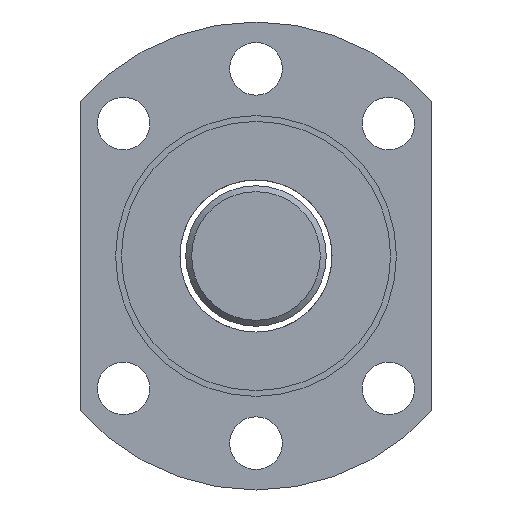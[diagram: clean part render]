
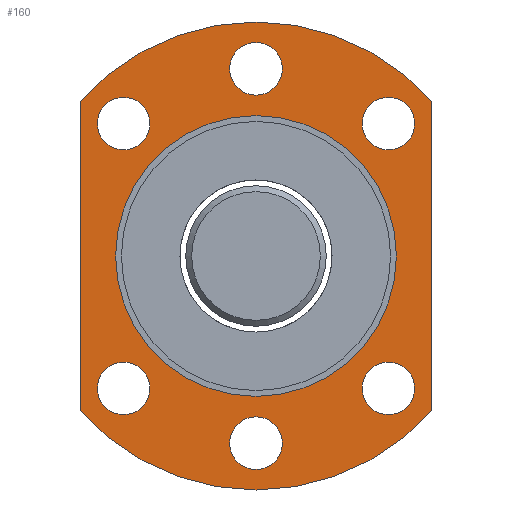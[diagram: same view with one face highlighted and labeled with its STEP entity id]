
A CAD part, left-side view. The second image highlights one B-rep face of the part: STEP entity #160.
In plain terms, the highlighted planar face has unit normal (-1, 0, 0).
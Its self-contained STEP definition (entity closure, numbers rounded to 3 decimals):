
#99=LINE('',#775,#107);
#100=LINE('',#777,#108);
#107=VECTOR('',#607,1.);
#108=VECTOR('',#608,1.);
#128=PLANE('',#540);
#140=FACE_OUTER_BOUND('',#263,.T.);
#160=ADVANCED_FACE('',(#140,#209,#210,#211,#212,#213,#214,#215),#128,.T.);
#209=FACE_BOUND('',#264,.T.);
#210=FACE_BOUND('',#265,.T.);
#211=FACE_BOUND('',#266,.T.);
#212=FACE_BOUND('',#267,.T.);
#213=FACE_BOUND('',#268,.T.);
#214=FACE_BOUND('',#269,.T.);
#215=FACE_BOUND('',#270,.T.);
#263=EDGE_LOOP('',(#334,#335,#336,#337));
#264=EDGE_LOOP('',(#338));
#265=EDGE_LOOP('',(#339));
#266=EDGE_LOOP('',(#340));
#267=EDGE_LOOP('',(#341));
#268=EDGE_LOOP('',(#342));
#269=EDGE_LOOP('',(#343));
#270=EDGE_LOOP('',(#344));
#334=ORIENTED_EDGE('',*,*,#455,.F.);
#335=ORIENTED_EDGE('',*,*,#451,.F.);
#336=ORIENTED_EDGE('',*,*,#456,.T.);
#337=ORIENTED_EDGE('',*,*,#457,.F.);
#338=ORIENTED_EDGE('',*,*,#458,.T.);
#339=ORIENTED_EDGE('',*,*,#459,.F.);
#340=ORIENTED_EDGE('',*,*,#460,.F.);
#341=ORIENTED_EDGE('',*,*,#461,.F.);
#342=ORIENTED_EDGE('',*,*,#462,.F.);
#343=ORIENTED_EDGE('',*,*,#463,.F.);
#344=ORIENTED_EDGE('',*,*,#464,.F.);
#412=VERTEX_POINT('',#767);
#413=VERTEX_POINT('',#768);
#416=VERTEX_POINT('',#776);
#417=VERTEX_POINT('',#778);
#418=VERTEX_POINT('',#781);
#419=VERTEX_POINT('',#783);
#420=VERTEX_POINT('',#785);
#421=VERTEX_POINT('',#787);
#422=VERTEX_POINT('',#789);
#423=VERTEX_POINT('',#791);
#424=VERTEX_POINT('',#793);
#451=EDGE_CURVE('',#412,#413,#492,.T.);
#455=EDGE_CURVE('',#413,#416,#99,.T.);
#456=EDGE_CURVE('',#412,#417,#100,.T.);
#457=EDGE_CURVE('',#416,#417,#494,.T.);
#458=EDGE_CURVE('',#418,#418,#495,.T.);
#459=EDGE_CURVE('',#419,#419,#496,.T.);
#460=EDGE_CURVE('',#420,#420,#497,.T.);
#461=EDGE_CURVE('',#421,#421,#498,.T.);
#462=EDGE_CURVE('',#422,#422,#499,.T.);
#463=EDGE_CURVE('',#423,#423,#500,.T.);
#464=EDGE_CURVE('',#424,#424,#501,.T.);
#492=CIRCLE('',#529,20.);
#494=CIRCLE('',#532,20.);
#495=CIRCLE('',#533,12.);
#496=CIRCLE('',#534,2.25);
#497=CIRCLE('',#535,2.25);
#498=CIRCLE('',#536,2.25);
#499=CIRCLE('',#537,2.25);
#500=CIRCLE('',#538,2.25);
#501=CIRCLE('',#539,2.25);
#529=AXIS2_PLACEMENT_3D('',#766,#599,#600);
#532=AXIS2_PLACEMENT_3D('',#779,#609,#610);
#533=AXIS2_PLACEMENT_3D('',#780,#611,#612);
#534=AXIS2_PLACEMENT_3D('',#782,#613,#614);
#535=AXIS2_PLACEMENT_3D('',#784,#615,#616);
#536=AXIS2_PLACEMENT_3D('',#786,#617,#618);
#537=AXIS2_PLACEMENT_3D('',#788,#619,#620);
#538=AXIS2_PLACEMENT_3D('',#790,#621,#622);
#539=AXIS2_PLACEMENT_3D('',#792,#623,#624);
#540=AXIS2_PLACEMENT_3D('',#794,#625,#626);
#599=DIRECTION('',(1.,0.,0.));
#600=DIRECTION('',(0.,0.,-1.));
#607=DIRECTION('',(0.,0.,1.));
#608=DIRECTION('',(0.,0.,1.));
#609=DIRECTION('',(1.,0.,0.));
#610=DIRECTION('',(0.,0.,-1.));
#611=DIRECTION('',(1.,0.,0.));
#612=DIRECTION('',(0.,0.,-1.));
#613=DIRECTION('',(-1.,0.,0.));
#614=DIRECTION('',(0.,0.,1.));
#615=DIRECTION('',(-1.,0.,0.));
#616=DIRECTION('',(0.,0.,1.));
#617=DIRECTION('',(-1.,0.,0.));
#618=DIRECTION('',(0.,0.,1.));
#619=DIRECTION('',(-1.,0.,0.));
#620=DIRECTION('',(0.,0.,1.));
#621=DIRECTION('',(-1.,0.,0.));
#622=DIRECTION('',(0.,0.,1.));
#623=DIRECTION('',(-1.,0.,0.));
#624=DIRECTION('',(0.,0.,1.));
#625=DIRECTION('',(-1.,0.,0.));
#626=DIRECTION('',(0.,0.,1.));
#766=CARTESIAN_POINT('',(-24.5,0.,0.));
#767=CARTESIAN_POINT('',(-24.5,-15.,-13.229));
#768=CARTESIAN_POINT('',(-24.5,15.,-13.229));
#775=CARTESIAN_POINT('',(-24.5,15.,0.));
#776=CARTESIAN_POINT('',(-24.5,15.,13.229));
#777=CARTESIAN_POINT('',(-24.5,-15.,0.));
#778=CARTESIAN_POINT('',(-24.5,-15.,13.229));
#779=CARTESIAN_POINT('',(-24.5,0.,0.));
#780=CARTESIAN_POINT('',(-24.5,0.,0.));
#781=CARTESIAN_POINT('',(-24.5,0.,-12.));
#782=CARTESIAN_POINT('',(-24.5,-11.314,11.314));
#783=CARTESIAN_POINT('',(-24.5,-11.314,13.564));
#784=CARTESIAN_POINT('',(-24.5,11.314,11.314));
#785=CARTESIAN_POINT('',(-24.5,11.314,13.564));
#786=CARTESIAN_POINT('',(-24.5,-11.314,-11.314));
#787=CARTESIAN_POINT('',(-24.5,-11.314,-9.064));
#788=CARTESIAN_POINT('',(-24.5,11.314,-11.314));
#789=CARTESIAN_POINT('',(-24.5,11.314,-9.064));
#790=CARTESIAN_POINT('',(-24.5,0.,16.));
#791=CARTESIAN_POINT('',(-24.5,0.,18.25));
#792=CARTESIAN_POINT('',(-24.5,0.,-16.));
#793=CARTESIAN_POINT('',(-24.5,0.,-13.75));
#794=CARTESIAN_POINT('',(-24.5,16.,0.));
